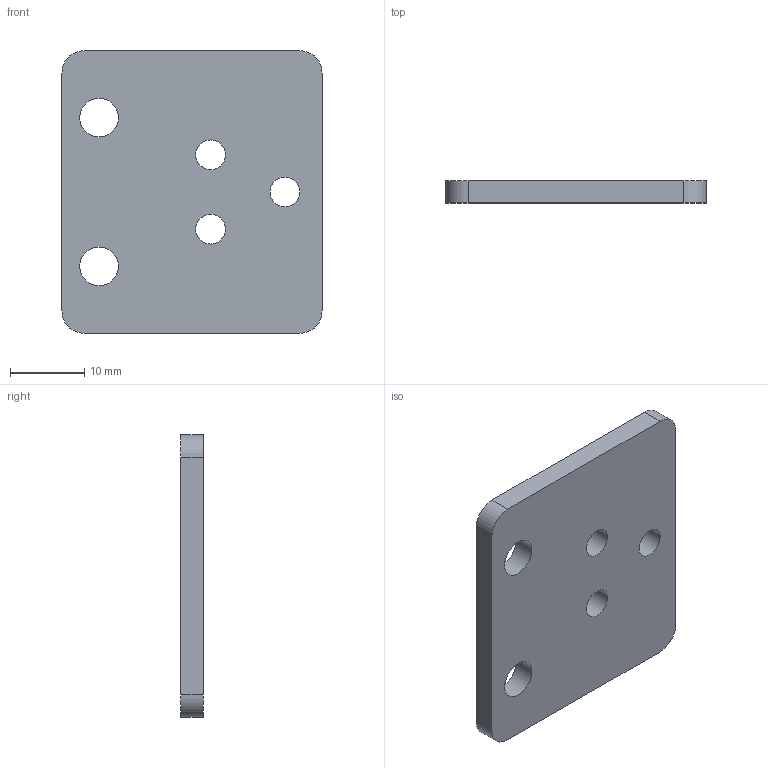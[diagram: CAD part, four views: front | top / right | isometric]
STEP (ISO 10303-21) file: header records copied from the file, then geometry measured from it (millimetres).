
FILE_DESCRIPTION((''),'2;1');
FILE_NAME('0000187048','2024-01-01T18:36:51',('Wyndorps'),(''),'CREO PARAMETRIC BY PTC INC, 2022484','CREO PARAMETRIC BY PTC INC, 2022484','');
FILE_SCHEMA(('CONFIG_CONTROL_DESIGN'));
Length unit declared in the file: millimetre
Products named in the file (1): 0000187048
Bounding box: 35 x 3 x 38 mm (x, y, z)
Volume: 3726.3 mm3; surface area: 3117.9 mm2
Topology: 1 solids, 1 shells, 20 faces, 54 edges, 36 vertices
Faces by surface type: cylinder 14, plane 6
Entity records: 704 total; most frequent: DIRECTION 122, CARTESIAN_POINT 110, ORIENTED_EDGE 108, EDGE_CURVE 54, AXIS2_PLACEMENT_3D 48, VERTEX_POINT 36, EDGE_LOOP 30, CIRCLE 28
